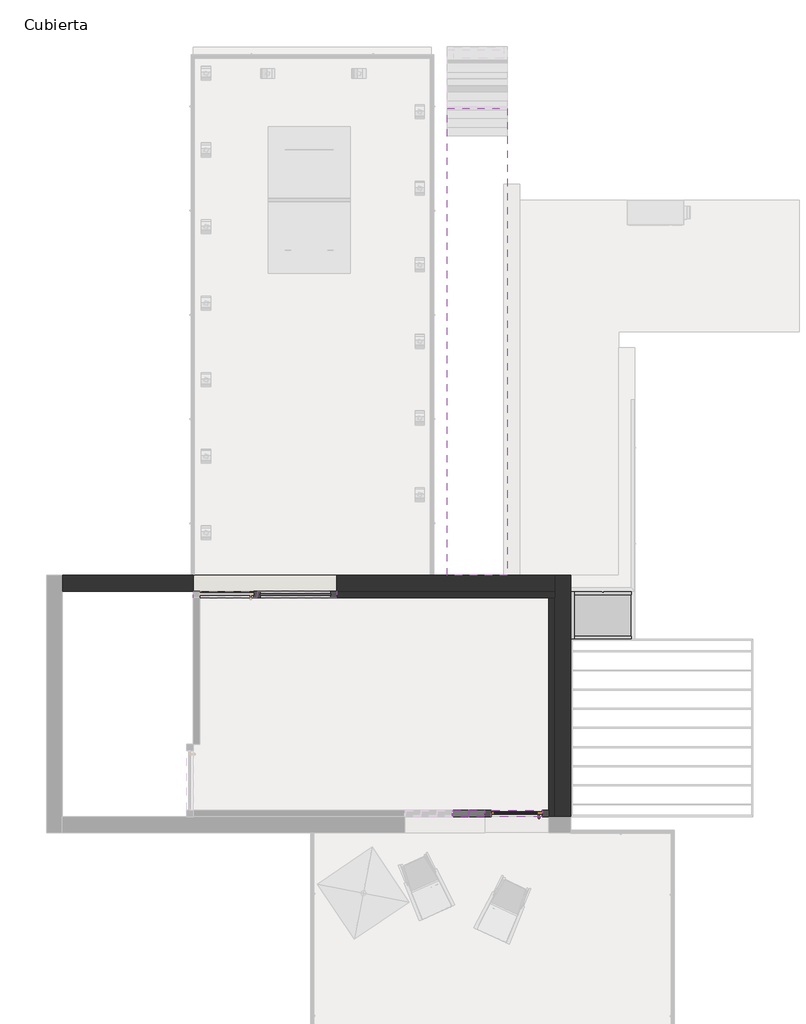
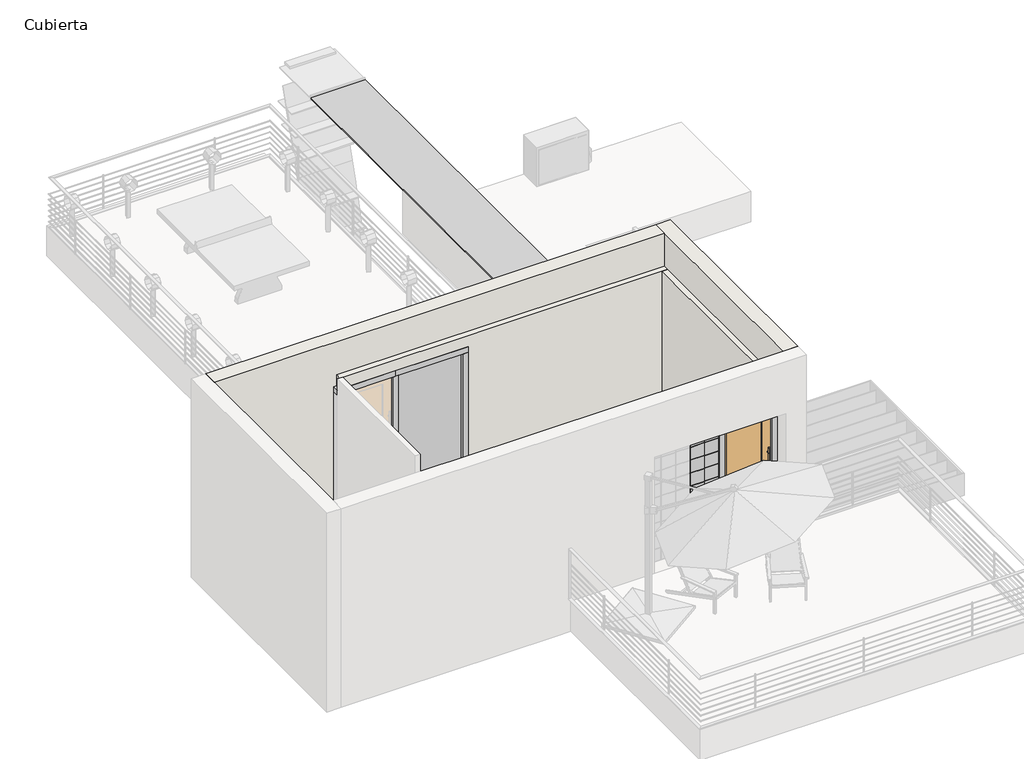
# One storey, part 2 of 3: 59 members, 21 plates, 4 walls, 1 door.
"""IFC4 building model written with IfcOpenShell, lengths in millimetres."""

from ifc_helpers import new_model, si_unit, origin, place, context, project, spatial, faceted_brep, transform, mapped, element, save
from components import sgl_glass_1_sgl_glass_1_8a55110c, montante_rectangular_21ec1a72, montante_rectangular_2e25ec90, montante_rectangular_0f009ab3, montante_rectangular_e8e7f79d, montante_rectangular_223da8a3, montante_rectangular_ca48c89f, montante_rectangular_3748f694, montante_rectangular_c4fc7d1e, montante_rectangular_montante_rectangular_10_x_10_cm_939e88b2, montante_rectangular_montante_rectangular_10_x_10_cm_76212c23, montante_rectangular_montante_rectangular_10_x_10_cm_1208ad8d, montante_rectangular_montante_rectangular_10_x_10_cm_fbaa0f1d, montante_rectangular_montante_rectangular_10_x_10_cm_c82e07c8, montante_rectangular_montante_rectangular_10_x_10_cm_2b84404f, montante_rectangular_montante_rectangular_10_x_10_cm_2c1c0a31, montante_rectangular_montante_rectangular_10_x_10_cm_14964f59, montante_rectangular_montante_rectangular_5_x_10_cm_afb0b622, montante_rectangular_montante_rectangular_5_x_10_cm_4e511d2b, panel_de_sistema_efafee70, panel_de_sistema_3b4a4584, panel_de_sistema_f5b48c68, panel_de_sistema_02896438, panel_de_sistema_acristalado_d2322d2b, panel_de_sistema_acristalado_58e72003, panel_de_sistema_acristalado_3_434b2e34

model = new_model("IFC4")

# Units and contexts
model_context = context("Model", 3, world=origin())
ifc_project = project(units=[si_unit("LENGTHUNIT", "METRE", prefix="MILLI")], contexts=[model_context])

# Site, building, storey
site = spatial("IfcSite", under=ifc_project)
building = spatial("IfcBuilding", under=site)
storey = spatial("IfcBuildingStorey", under=building, Name="Cubierta", Elevation=6000.0)

# Door
placement = place(None, origin())
sgl_glass_1_sgl_glass_1_shape = sgl_glass_1_sgl_glass_1_8a55110c(model_context)
element("IfcDoor", 1, ObjectType="Sgl Glass (1) : Sgl Glass (1)", at=placement, inside=storey, context=model_context, shape_type="MappedRepresentation", body=[
    mapped(sgl_glass_1_sgl_glass_1_shape, transform((1085.5350958, -7992.6669037, 6100.0), x_axis=(-1.0, 0.0, 0.0), y_axis=(0.0, -1.0, 0.0), z_axis=(0.0, 0.0, 1.0))),
])

# Members
montante_rectangular_shape = montante_rectangular_21ec1a72(model_context)
element("IfcMember", 2, ObjectType="Montante rectangular : Junta de paves", at=placement, inside=storey, context=model_context, shape_type="MappedRepresentation", body=[
    mapped(montante_rectangular_shape, transform((340.5350958, -7992.6669037, 8350.0), x_axis=(0.0, 0.0, 1.0), y_axis=(0.0, 1.0, 0.0), z_axis=(-1.0, 0.0, 0.0))),
])
montante_rectangular_2_shape = montante_rectangular_2e25ec90(model_context)
element("IfcMember", 3, ObjectType="Montante rectangular : Junta de paves", at=placement, inside=storey, context=model_context, shape_type="MappedRepresentation", body=[
    mapped(montante_rectangular_2_shape, transform((575.5350958, -7992.6669037, 6250.0), x_axis=(0.0, 0.0, -1.0), y_axis=(0.0, 1.0, 0.0), z_axis=(1.0, 0.0, 0.0))),
])
montante_rectangular_3_shape = montante_rectangular_0f009ab3(model_context)
element("IfcMember", 4, ObjectType="Montante rectangular : Junta de paves", at=placement, inside=storey, context=model_context, shape_type="MappedRepresentation", body=[
    mapped(montante_rectangular_3_shape, transform((340.5350958, -7992.6669037, 6483.3333333), x_axis=(0.0, 0.0, 1.0), y_axis=(0.0, 1.0, 0.0), z_axis=(-1.0, 0.0, 0.0))),
])
element("IfcMember", 5, ObjectType="Montante rectangular : Junta de paves", at=placement, inside=storey, context=model_context, shape_type="MappedRepresentation", body=[
    mapped(montante_rectangular_3_shape, transform((340.5350958, -7992.6669037, 6716.6666667), x_axis=(0.0, 0.0, 1.0), y_axis=(0.0, 1.0, 0.0), z_axis=(-1.0, 0.0, 0.0))),
])
element("IfcMember", 6, ObjectType="Montante rectangular : Junta de paves", at=placement, inside=storey, context=model_context, shape_type="MappedRepresentation", body=[
    mapped(montante_rectangular_3_shape, transform((340.5350958, -7992.6669037, 6950.0), x_axis=(0.0, 0.0, 1.0), y_axis=(0.0, 1.0, 0.0), z_axis=(-1.0, 0.0, 0.0))),
])
element("IfcMember", 7, ObjectType="Montante rectangular : Junta de paves", at=placement, inside=storey, context=model_context, shape_type="MappedRepresentation", body=[
    mapped(montante_rectangular_3_shape, transform((340.5350958, -7992.6669037, 7183.3333333), x_axis=(0.0, 0.0, 1.0), y_axis=(0.0, 1.0, 0.0), z_axis=(-1.0, 0.0, 0.0))),
])
element("IfcMember", 8, ObjectType="Montante rectangular : Junta de paves", at=placement, inside=storey, context=model_context, shape_type="MappedRepresentation", body=[
    mapped(montante_rectangular_3_shape, transform((340.5350958, -7992.6669037, 7416.6666667), x_axis=(0.0, 0.0, 1.0), y_axis=(0.0, 1.0, 0.0), z_axis=(-1.0, 0.0, 0.0))),
])
element("IfcMember", 9, ObjectType="Montante rectangular : Junta de paves", at=placement, inside=storey, context=model_context, shape_type="MappedRepresentation", body=[
    mapped(montante_rectangular_3_shape, transform((340.5350958, -7992.6669037, 7650.0), x_axis=(0.0, 0.0, 1.0), y_axis=(0.0, 1.0, 0.0), z_axis=(-1.0, 0.0, 0.0))),
])
element("IfcMember", 10, ObjectType="Montante rectangular : Junta de paves", at=placement, inside=storey, context=model_context, shape_type="MappedRepresentation", body=[
    mapped(montante_rectangular_3_shape, transform((340.5350958, -7992.6669037, 7883.3333333), x_axis=(0.0, 0.0, 1.0), y_axis=(0.0, 1.0, 0.0), z_axis=(-1.0, 0.0, 0.0))),
])
element("IfcMember", 11, ObjectType="Montante rectangular : Junta de paves", at=placement, inside=storey, context=model_context, shape_type="MappedRepresentation", body=[
    mapped(montante_rectangular_3_shape, transform((340.5350958, -7992.6669037, 8116.6666667), x_axis=(0.0, 0.0, 1.0), y_axis=(0.0, 1.0, 0.0), z_axis=(-1.0, 0.0, 0.0))),
])
montante_rectangular_4_shape = montante_rectangular_e8e7f79d(model_context)
element("IfcMember", 12, ObjectType="Montante rectangular : Junta de paves", at=placement, inside=storey, context=model_context, shape_type="MappedRepresentation", body=[
    mapped(montante_rectangular_4_shape, transform((330.5350958, -7992.6669037, 6250.0), x_axis=(0.0, 0.0, -1.0), y_axis=(0.0, 1.0, 0.0), z_axis=(1.0, 0.0, 0.0))),
])
element("IfcMember", 13, ObjectType="Montante rectangular : Junta de paves", at=placement, inside=storey, context=model_context, shape_type="MappedRepresentation", body=[
    mapped(montante_rectangular_4_shape, transform((80.5350958, -7992.6669037, 6250.0), x_axis=(0.0, 0.0, -1.0), y_axis=(0.0, 1.0, 0.0), z_axis=(1.0, 0.0, 0.0))),
])
montante_rectangular_5_shape = montante_rectangular_223da8a3(model_context)
element("IfcMember", 14, ObjectType="Montante rectangular : Junta de paves", at=placement, inside=storey, context=model_context, shape_type="MappedRepresentation", body=[
    mapped(montante_rectangular_5_shape, transform((90.5350958, -7992.6669037, 6483.3333333), x_axis=(0.0, 0.0, 1.0), y_axis=(0.0, 1.0, 0.0), z_axis=(-1.0, 0.0, 0.0))),
])
element("IfcMember", 15, ObjectType="Montante rectangular : Junta de paves", at=placement, inside=storey, context=model_context, shape_type="MappedRepresentation", body=[
    mapped(montante_rectangular_5_shape, transform((90.5350958, -7992.6669037, 6716.6666667), x_axis=(0.0, 0.0, 1.0), y_axis=(0.0, 1.0, 0.0), z_axis=(-1.0, 0.0, 0.0))),
])
element("IfcMember", 16, ObjectType="Montante rectangular : Junta de paves", at=placement, inside=storey, context=model_context, shape_type="MappedRepresentation", body=[
    mapped(montante_rectangular_5_shape, transform((90.5350958, -7992.6669037, 6950.0), x_axis=(0.0, 0.0, 1.0), y_axis=(0.0, 1.0, 0.0), z_axis=(-1.0, 0.0, 0.0))),
])
element("IfcMember", 17, ObjectType="Montante rectangular : Junta de paves", at=placement, inside=storey, context=model_context, shape_type="MappedRepresentation", body=[
    mapped(montante_rectangular_5_shape, transform((90.5350958, -7992.6669037, 7183.3333333), x_axis=(0.0, 0.0, 1.0), y_axis=(0.0, 1.0, 0.0), z_axis=(-1.0, 0.0, 0.0))),
])
element("IfcMember", 18, ObjectType="Montante rectangular : Junta de paves", at=placement, inside=storey, context=model_context, shape_type="MappedRepresentation", body=[
    mapped(montante_rectangular_5_shape, transform((90.5350958, -7992.6669037, 7416.6666667), x_axis=(0.0, 0.0, 1.0), y_axis=(0.0, 1.0, 0.0), z_axis=(-1.0, 0.0, 0.0))),
])
element("IfcMember", 19, ObjectType="Montante rectangular : Junta de paves", at=placement, inside=storey, context=model_context, shape_type="MappedRepresentation", body=[
    mapped(montante_rectangular_5_shape, transform((90.5350958, -7992.6669037, 7650.0), x_axis=(0.0, 0.0, 1.0), y_axis=(0.0, 1.0, 0.0), z_axis=(-1.0, 0.0, 0.0))),
])
element("IfcMember", 20, ObjectType="Montante rectangular : Junta de paves", at=placement, inside=storey, context=model_context, shape_type="MappedRepresentation", body=[
    mapped(montante_rectangular_5_shape, transform((90.5350958, -7992.6669037, 7883.3333333), x_axis=(0.0, 0.0, 1.0), y_axis=(0.0, 1.0, 0.0), z_axis=(-1.0, 0.0, 0.0))),
])
element("IfcMember", 21, ObjectType="Montante rectangular : Junta de paves", at=placement, inside=storey, context=model_context, shape_type="MappedRepresentation", body=[
    mapped(montante_rectangular_5_shape, transform((90.5350958, -7992.6669037, 8116.6666667), x_axis=(0.0, 0.0, 1.0), y_axis=(0.0, 1.0, 0.0), z_axis=(-1.0, 0.0, 0.0))),
])
montante_rectangular_6_shape = montante_rectangular_ca48c89f(model_context)
element("IfcMember", 22, ObjectType="Montante rectangular : Junta de paves", at=placement, inside=storey, context=model_context, shape_type="MappedRepresentation", body=[
    mapped(montante_rectangular_6_shape, transform((90.5350958, -7992.6669037, 8350.0), x_axis=(0.0, 0.0, 1.0), y_axis=(0.0, 1.0, 0.0), z_axis=(-1.0, 0.0, 0.0))),
])
montante_rectangular_7_shape = montante_rectangular_3748f694(model_context)
element("IfcMember", 23, ObjectType="Montante rectangular : Junta de paves", at=placement, inside=storey, context=model_context, shape_type="MappedRepresentation", body=[
    mapped(montante_rectangular_7_shape, transform((335.5350958, -7992.6669037, 6250.0), x_axis=(-1.0, 0.0, 0.0), y_axis=(0.0, 1.0, 0.0), z_axis=(0.0, 0.0, -1.0))),
])
element("IfcMember", 24, ObjectType="Montante rectangular : Junta de paves", at=placement, inside=storey, context=model_context, shape_type="MappedRepresentation", body=[
    mapped(montante_rectangular_7_shape, transform((85.5350958, -7992.6669037, 6250.0), x_axis=(-1.0, 0.0, 0.0), y_axis=(0.0, 1.0, 0.0), z_axis=(0.0, 0.0, -1.0))),
])
element("IfcMember", 25, ObjectType="Montante rectangular : Junta de paves", at=placement, inside=storey, context=model_context, shape_type="MappedRepresentation", body=[
    mapped(montante_rectangular_7_shape, transform((335.5350958, -7992.6669037, 6483.3333333), x_axis=(-1.0, 0.0, 0.0), y_axis=(0.0, 1.0, 0.0), z_axis=(0.0, 0.0, -1.0))),
])
element("IfcMember", 26, ObjectType="Montante rectangular : Junta de paves", at=placement, inside=storey, context=model_context, shape_type="MappedRepresentation", body=[
    mapped(montante_rectangular_7_shape, transform((85.5350958, -7992.6669037, 6483.3333333), x_axis=(-1.0, 0.0, 0.0), y_axis=(0.0, 1.0, 0.0), z_axis=(0.0, 0.0, -1.0))),
])
element("IfcMember", 27, ObjectType="Montante rectangular : Junta de paves", at=placement, inside=storey, context=model_context, shape_type="MappedRepresentation", body=[
    mapped(montante_rectangular_7_shape, transform((335.5350958, -7992.6669037, 6716.6666667), x_axis=(-1.0, 0.0, 0.0), y_axis=(0.0, 1.0, 0.0), z_axis=(0.0, 0.0, -1.0))),
])
element("IfcMember", 28, ObjectType="Montante rectangular : Junta de paves", at=placement, inside=storey, context=model_context, shape_type="MappedRepresentation", body=[
    mapped(montante_rectangular_7_shape, transform((85.5350958, -7992.6669037, 6716.6666667), x_axis=(-1.0, 0.0, 0.0), y_axis=(0.0, 1.0, 0.0), z_axis=(0.0, 0.0, -1.0))),
])
element("IfcMember", 29, ObjectType="Montante rectangular : Junta de paves", at=placement, inside=storey, context=model_context, shape_type="MappedRepresentation", body=[
    mapped(montante_rectangular_7_shape, transform((335.5350958, -7992.6669037, 6950.0), x_axis=(-1.0, 0.0, 0.0), y_axis=(0.0, 1.0, 0.0), z_axis=(0.0, 0.0, -1.0))),
])
element("IfcMember", 30, ObjectType="Montante rectangular : Junta de paves", at=placement, inside=storey, context=model_context, shape_type="MappedRepresentation", body=[
    mapped(montante_rectangular_7_shape, transform((85.5350958, -7992.6669037, 6950.0), x_axis=(-1.0, 0.0, 0.0), y_axis=(0.0, 1.0, 0.0), z_axis=(0.0, 0.0, -1.0))),
])
element("IfcMember", 31, ObjectType="Montante rectangular : Junta de paves", at=placement, inside=storey, context=model_context, shape_type="MappedRepresentation", body=[
    mapped(montante_rectangular_7_shape, transform((335.5350958, -7992.6669037, 7183.3333333), x_axis=(-1.0, 0.0, 0.0), y_axis=(0.0, 1.0, 0.0), z_axis=(0.0, 0.0, -1.0))),
])
element("IfcMember", 32, ObjectType="Montante rectangular : Junta de paves", at=placement, inside=storey, context=model_context, shape_type="MappedRepresentation", body=[
    mapped(montante_rectangular_7_shape, transform((85.5350958, -7992.6669037, 7183.3333333), x_axis=(-1.0, 0.0, 0.0), y_axis=(0.0, 1.0, 0.0), z_axis=(0.0, 0.0, -1.0))),
])
element("IfcMember", 33, ObjectType="Montante rectangular : Junta de paves", at=placement, inside=storey, context=model_context, shape_type="MappedRepresentation", body=[
    mapped(montante_rectangular_7_shape, transform((335.5350958, -7992.6669037, 7416.6666667), x_axis=(-1.0, 0.0, 0.0), y_axis=(0.0, 1.0, 0.0), z_axis=(0.0, 0.0, -1.0))),
])
element("IfcMember", 34, ObjectType="Montante rectangular : Junta de paves", at=placement, inside=storey, context=model_context, shape_type="MappedRepresentation", body=[
    mapped(montante_rectangular_7_shape, transform((85.5350958, -7992.6669037, 7416.6666667), x_axis=(-1.0, 0.0, 0.0), y_axis=(0.0, 1.0, 0.0), z_axis=(0.0, 0.0, -1.0))),
])
element("IfcMember", 35, ObjectType="Montante rectangular : Junta de paves", at=placement, inside=storey, context=model_context, shape_type="MappedRepresentation", body=[
    mapped(montante_rectangular_7_shape, transform((335.5350958, -7992.6669037, 7650.0), x_axis=(-1.0, 0.0, 0.0), y_axis=(0.0, 1.0, 0.0), z_axis=(0.0, 0.0, -1.0))),
])
element("IfcMember", 36, ObjectType="Montante rectangular : Junta de paves", at=placement, inside=storey, context=model_context, shape_type="MappedRepresentation", body=[
    mapped(montante_rectangular_7_shape, transform((85.5350958, -7992.6669037, 7650.0), x_axis=(-1.0, 0.0, 0.0), y_axis=(0.0, 1.0, 0.0), z_axis=(0.0, 0.0, -1.0))),
])
element("IfcMember", 37, ObjectType="Montante rectangular : Junta de paves", at=placement, inside=storey, context=model_context, shape_type="MappedRepresentation", body=[
    mapped(montante_rectangular_7_shape, transform((335.5350958, -7992.6669037, 7883.3333333), x_axis=(-1.0, 0.0, 0.0), y_axis=(0.0, 1.0, 0.0), z_axis=(0.0, 0.0, -1.0))),
])
element("IfcMember", 38, ObjectType="Montante rectangular : Junta de paves", at=placement, inside=storey, context=model_context, shape_type="MappedRepresentation", body=[
    mapped(montante_rectangular_7_shape, transform((85.5350958, -7992.6669037, 7883.3333333), x_axis=(-1.0, 0.0, 0.0), y_axis=(0.0, 1.0, 0.0), z_axis=(0.0, 0.0, -1.0))),
])
element("IfcMember", 39, ObjectType="Montante rectangular : Junta de paves", at=placement, inside=storey, context=model_context, shape_type="MappedRepresentation", body=[
    mapped(montante_rectangular_7_shape, transform((335.5350958, -7992.6669037, 8116.6666667), x_axis=(-1.0, 0.0, 0.0), y_axis=(0.0, 1.0, 0.0), z_axis=(0.0, 0.0, -1.0))),
])
element("IfcMember", 40, ObjectType="Montante rectangular : Junta de paves", at=placement, inside=storey, context=model_context, shape_type="MappedRepresentation", body=[
    mapped(montante_rectangular_7_shape, transform((85.5350958, -7992.6669037, 8116.6666667), x_axis=(-1.0, 0.0, 0.0), y_axis=(0.0, 1.0, 0.0), z_axis=(0.0, 0.0, -1.0))),
])
montante_rectangular_8_shape = montante_rectangular_c4fc7d1e(model_context)
element("IfcMember", 41, ObjectType="Montante rectangular : Junta de paves", at=placement, inside=storey, context=model_context, shape_type="MappedRepresentation", body=[
    mapped(montante_rectangular_8_shape, transform((585.5350958, -7992.6669037, 8350.0), x_axis=(1.0, 0.0, 0.0), y_axis=(0.0, 1.0, 0.0), z_axis=(0.0, 0.0, 1.0))),
])
element("IfcMember", 42, ObjectType="Montante rectangular : Junta de paves", at=placement, inside=storey, context=model_context, shape_type="MappedRepresentation", body=[
    mapped(montante_rectangular_8_shape, transform((585.5350958, -7992.6669037, 6483.3333333), x_axis=(1.0, 0.0, 0.0), y_axis=(0.0, 1.0, 0.0), z_axis=(0.0, 0.0, 1.0))),
])
element("IfcMember", 43, ObjectType="Montante rectangular : Junta de paves", at=placement, inside=storey, context=model_context, shape_type="MappedRepresentation", body=[
    mapped(montante_rectangular_8_shape, transform((585.5350958, -7992.6669037, 6716.6666667), x_axis=(1.0, 0.0, 0.0), y_axis=(0.0, 1.0, 0.0), z_axis=(0.0, 0.0, 1.0))),
])
element("IfcMember", 44, ObjectType="Montante rectangular : Junta de paves", at=placement, inside=storey, context=model_context, shape_type="MappedRepresentation", body=[
    mapped(montante_rectangular_8_shape, transform((585.5350958, -7992.6669037, 6950.0), x_axis=(1.0, 0.0, 0.0), y_axis=(0.0, 1.0, 0.0), z_axis=(0.0, 0.0, 1.0))),
])
element("IfcMember", 45, ObjectType="Montante rectangular : Junta de paves", at=placement, inside=storey, context=model_context, shape_type="MappedRepresentation", body=[
    mapped(montante_rectangular_8_shape, transform((585.5350958, -7992.6669037, 7183.3333333), x_axis=(1.0, 0.0, 0.0), y_axis=(0.0, 1.0, 0.0), z_axis=(0.0, 0.0, 1.0))),
])
element("IfcMember", 46, ObjectType="Montante rectangular : Junta de paves", at=placement, inside=storey, context=model_context, shape_type="MappedRepresentation", body=[
    mapped(montante_rectangular_8_shape, transform((585.5350958, -7992.6669037, 7416.6666667), x_axis=(1.0, 0.0, 0.0), y_axis=(0.0, 1.0, 0.0), z_axis=(0.0, 0.0, 1.0))),
])
element("IfcMember", 47, ObjectType="Montante rectangular : Junta de paves", at=placement, inside=storey, context=model_context, shape_type="MappedRepresentation", body=[
    mapped(montante_rectangular_8_shape, transform((585.5350958, -7992.6669037, 7650.0), x_axis=(1.0, 0.0, 0.0), y_axis=(0.0, 1.0, 0.0), z_axis=(0.0, 0.0, 1.0))),
])
element("IfcMember", 48, ObjectType="Montante rectangular : Junta de paves", at=placement, inside=storey, context=model_context, shape_type="MappedRepresentation", body=[
    mapped(montante_rectangular_8_shape, transform((585.5350958, -7992.6669037, 7883.3333333), x_axis=(1.0, 0.0, 0.0), y_axis=(0.0, 1.0, 0.0), z_axis=(0.0, 0.0, 1.0))),
])
element("IfcMember", 49, ObjectType="Montante rectangular : Junta de paves", at=placement, inside=storey, context=model_context, shape_type="MappedRepresentation", body=[
    mapped(montante_rectangular_8_shape, transform((585.5350958, -7992.6669037, 8116.6666667), x_axis=(1.0, 0.0, 0.0), y_axis=(0.0, 1.0, 0.0), z_axis=(0.0, 0.0, 1.0))),
])
montante_rectangular_montante_rectangular_10_x_10_cm_shape = montante_rectangular_montante_rectangular_10_x_10_cm_939e88b2(model_context)
element("IfcMember", 50, ObjectType="Montante rectangular : Montante rectangular - 10 x 10 cm", at=placement, inside=storey, context=model_context, shape_type="MappedRepresentation", body=[
    mapped(montante_rectangular_montante_rectangular_10_x_10_cm_shape, transform((-2981.0601801, -4562.6669037, 8500.0), x_axis=(0.0, 0.0, 1.0), y_axis=(0.0, -1.0, 0.0), z_axis=(1.0, 0.0, 0.0))),
])
montante_rectangular_montante_rectangular_10_x_10_cm_2_shape = montante_rectangular_montante_rectangular_10_x_10_cm_76212c23(model_context)
element("IfcMember", 51, ObjectType="Montante rectangular : Montante rectangular - 10 x 10 cm", at=placement, inside=storey, context=model_context, shape_type="MappedRepresentation", body=[
    mapped(montante_rectangular_montante_rectangular_10_x_10_cm_2_shape, transform((685.5350958, -7992.6669037, 8350.0), x_axis=(0.0, 0.0, 1.0), y_axis=(0.0, 1.0, 0.0), z_axis=(-1.0, 0.0, 0.0))),
])
montante_rectangular_montante_rectangular_10_x_10_cm_3_shape = montante_rectangular_montante_rectangular_10_x_10_cm_1208ad8d(model_context)
element("IfcMember", 52, ObjectType="Montante rectangular : Montante rectangular - 10 x 10 cm", at=placement, inside=storey, context=model_context, shape_type="MappedRepresentation", body=[
    mapped(montante_rectangular_montante_rectangular_10_x_10_cm_3_shape, transform((585.5350958, -7992.6669037, 6100.0), x_axis=(-1.0, 0.0, 0.0), y_axis=(0.0, 1.0, 0.0), z_axis=(0.0, 0.0, -1.0))),
])
montante_rectangular_montante_rectangular_10_x_10_cm_4_shape = montante_rectangular_montante_rectangular_10_x_10_cm_fbaa0f1d(model_context)
element("IfcMember", 53, ObjectType="Montante rectangular : Montante rectangular - 10 x 10 cm", at=placement, inside=storey, context=model_context, shape_type="MappedRepresentation", body=[
    mapped(montante_rectangular_montante_rectangular_10_x_10_cm_4_shape, transform((1585.5350958, -7992.6669037, 8350.0), x_axis=(1.0, 0.0, 0.0), y_axis=(0.0, 1.0, 0.0), z_axis=(0.0, 0.0, 1.0))),
])
montante_rectangular_montante_rectangular_10_x_10_cm_5_shape = montante_rectangular_montante_rectangular_10_x_10_cm_c82e07c8(model_context)
element("IfcMember", 54, ObjectType="Montante rectangular : Montante rectangular - 10 x 10 cm", at=placement, inside=storey, context=model_context, shape_type="MappedRepresentation", body=[
    mapped(montante_rectangular_montante_rectangular_10_x_10_cm_5_shape, transform((-1731.0601801, -4562.6669037, 6350.0), x_axis=(1.0, 0.0, 0.0), y_axis=(0.0, -1.0, 0.0), z_axis=(0.0, 0.0, -1.0))),
])
montante_rectangular_montante_rectangular_10_x_10_cm_6_shape = montante_rectangular_montante_rectangular_10_x_10_cm_2b84404f(model_context)
element("IfcMember", 55, ObjectType="Montante rectangular : Montante rectangular - 10 x 10 cm", at=placement, inside=storey, context=model_context, shape_type="MappedRepresentation", body=[
    mapped(montante_rectangular_montante_rectangular_10_x_10_cm_6_shape, transform((-1731.0601801, -4562.6669037, 8500.0), x_axis=(0.0, 0.0, 1.0), y_axis=(0.0, -1.0, 0.0), z_axis=(1.0, 0.0, 0.0))),
])
montante_rectangular_montante_rectangular_10_x_10_cm_7_shape = montante_rectangular_montante_rectangular_10_x_10_cm_2c1c0a31(model_context)
element("IfcMember", 56, ObjectType="Montante rectangular : Montante rectangular - 10 x 10 cm", at=placement, inside=storey, context=model_context, shape_type="MappedRepresentation", body=[
    mapped(montante_rectangular_montante_rectangular_10_x_10_cm_7_shape, transform((-2981.0601801, -4562.6669037, 6350.0), x_axis=(1.0, 0.0, 0.0), y_axis=(0.0, -1.0, 0.0), z_axis=(0.0, 0.0, -1.0))),
])
montante_rectangular_montante_rectangular_10_x_10_cm_8_shape = montante_rectangular_montante_rectangular_10_x_10_cm_14964f59(model_context)
element("IfcMember", 57, ObjectType="Montante rectangular : Montante rectangular - 10 x 10 cm", at=placement, inside=storey, context=model_context, shape_type="MappedRepresentation", body=[
    mapped(montante_rectangular_montante_rectangular_10_x_10_cm_8_shape, transform((-3031.0601801, -4562.6669037, 6250.0), x_axis=(0.0, 0.0, -1.0), y_axis=(0.0, -1.0, 0.0), z_axis=(-1.0, 0.0, 0.0))),
])
montante_rectangular_montante_rectangular_5_x_10_cm_shape = montante_rectangular_montante_rectangular_5_x_10_cm_afb0b622(model_context)
element("IfcMember", 58, ObjectType="Montante rectangular : Montante rectangular - 5 x 10 cm", at=placement, inside=storey, context=model_context, shape_type="MappedRepresentation", body=[
    mapped(montante_rectangular_montante_rectangular_5_x_10_cm_shape, transform((2885.5350958, -5262.6669037, 5650.0), x_axis=(0.0, -1.0, 0.0), y_axis=(0.0, 0.0, -1.0), z_axis=(1.0, 0.0, 0.0))),
])
element("IfcMember", 59, ObjectType="Montante rectangular : Montante rectangular - 5 x 10 cm", at=placement, inside=storey, context=model_context, shape_type="MappedRepresentation", body=[
    mapped(montante_rectangular_montante_rectangular_5_x_10_cm_shape, transform((1985.5350958, -4512.6669037, 5650.0), x_axis=(0.0, 1.0, 0.0), y_axis=(0.0, 0.0, -1.0), z_axis=(-1.0, 0.0, 0.0))),
])
montante_rectangular_montante_rectangular_5_x_10_cm_2_shape = montante_rectangular_montante_rectangular_5_x_10_cm_4e511d2b(model_context)
element("IfcMember", 60, ObjectType="Montante rectangular : Montante rectangular - 5 x 10 cm", at=placement, inside=storey, context=model_context, shape_type="MappedRepresentation", body=[
    mapped(montante_rectangular_montante_rectangular_5_x_10_cm_2_shape, transform((1935.5350958, -5262.6669037, 5650.0), x_axis=(-1.0, 0.0, 0.0), y_axis=(0.0, 0.0, -1.0), z_axis=(0.0, -1.0, 0.0))),
])

# Plates
panel_de_sistema_shape = panel_de_sistema_efafee70(model_context)
element("IfcPlate", 61, ObjectType="Panel de sistema : PAVES", at=placement, inside=storey, context=model_context, shape_type="MappedRepresentation", body=[
    mapped(panel_de_sistema_shape, transform((458.0350958, -7992.6669037, 6260.0), x_axis=(-1.0, 0.0, 0.0), y_axis=(0.0, -1.0, 0.0), z_axis=(0.0, 0.0, 1.0))),
])
element("IfcPlate", 62, ObjectType="Panel de sistema : PAVES", at=placement, inside=storey, context=model_context, shape_type="MappedRepresentation", body=[
    mapped(panel_de_sistema_shape, transform((458.0350958, -7992.6669037, 8121.6666667), x_axis=(-1.0, 0.0, 0.0), y_axis=(0.0, -1.0, 0.0), z_axis=(0.0, 0.0, 1.0))),
])
panel_de_sistema_2_shape = panel_de_sistema_3b4a4584(model_context)
element("IfcPlate", 63, ObjectType="Panel de sistema : PAVES", at=placement, inside=storey, context=model_context, shape_type="MappedRepresentation", body=[
    mapped(panel_de_sistema_2_shape, transform((210.5350958, -7992.6669037, 6260.0), x_axis=(-1.0, 0.0, 0.0), y_axis=(0.0, -1.0, 0.0), z_axis=(0.0, 0.0, 1.0))),
])
element("IfcPlate", 64, ObjectType="Panel de sistema : PAVES", at=placement, inside=storey, context=model_context, shape_type="MappedRepresentation", body=[
    mapped(panel_de_sistema_2_shape, transform((210.5350958, -7992.6669037, 8121.6666667), x_axis=(-1.0, 0.0, 0.0), y_axis=(0.0, -1.0, 0.0), z_axis=(0.0, 0.0, 1.0))),
])
panel_de_sistema_3_shape = panel_de_sistema_f5b48c68(model_context)
element("IfcPlate", 65, ObjectType="Panel de sistema : PAVES", at=placement, inside=storey, context=model_context, shape_type="MappedRepresentation", body=[
    mapped(panel_de_sistema_3_shape, transform((458.0350958, -7992.6669037, 6488.3333333), x_axis=(-1.0, 0.0, 0.0), y_axis=(0.0, -1.0, 0.0), z_axis=(0.0, 0.0, 1.0))),
])
element("IfcPlate", 66, ObjectType="Panel de sistema : PAVES", at=placement, inside=storey, context=model_context, shape_type="MappedRepresentation", body=[
    mapped(panel_de_sistema_3_shape, transform((458.0350958, -7992.6669037, 6721.6666667), x_axis=(-1.0, 0.0, 0.0), y_axis=(0.0, -1.0, 0.0), z_axis=(0.0, 0.0, 1.0))),
])
element("IfcPlate", 67, ObjectType="Panel de sistema : PAVES", at=placement, inside=storey, context=model_context, shape_type="MappedRepresentation", body=[
    mapped(panel_de_sistema_3_shape, transform((458.0350958, -7992.6669037, 6955.0), x_axis=(-1.0, 0.0, 0.0), y_axis=(0.0, -1.0, 0.0), z_axis=(0.0, 0.0, 1.0))),
])
element("IfcPlate", 68, ObjectType="Panel de sistema : PAVES", at=placement, inside=storey, context=model_context, shape_type="MappedRepresentation", body=[
    mapped(panel_de_sistema_3_shape, transform((458.0350958, -7992.6669037, 7188.3333333), x_axis=(-1.0, 0.0, 0.0), y_axis=(0.0, -1.0, 0.0), z_axis=(0.0, 0.0, 1.0))),
])
element("IfcPlate", 69, ObjectType="Panel de sistema : PAVES", at=placement, inside=storey, context=model_context, shape_type="MappedRepresentation", body=[
    mapped(panel_de_sistema_3_shape, transform((458.0350958, -7992.6669037, 7421.6666667), x_axis=(-1.0, 0.0, 0.0), y_axis=(0.0, -1.0, 0.0), z_axis=(0.0, 0.0, 1.0))),
])
element("IfcPlate", 70, ObjectType="Panel de sistema : PAVES", at=placement, inside=storey, context=model_context, shape_type="MappedRepresentation", body=[
    mapped(panel_de_sistema_3_shape, transform((458.0350958, -7992.6669037, 7655.0), x_axis=(-1.0, 0.0, 0.0), y_axis=(0.0, -1.0, 0.0), z_axis=(0.0, 0.0, 1.0))),
])
element("IfcPlate", 71, ObjectType="Panel de sistema : PAVES", at=placement, inside=storey, context=model_context, shape_type="MappedRepresentation", body=[
    mapped(panel_de_sistema_3_shape, transform((458.0350958, -7992.6669037, 7888.3333333), x_axis=(-1.0, 0.0, 0.0), y_axis=(0.0, -1.0, 0.0), z_axis=(0.0, 0.0, 1.0))),
])
panel_de_sistema_4_shape = panel_de_sistema_02896438(model_context)
element("IfcPlate", 72, ObjectType="Panel de sistema : PAVES", at=placement, inside=storey, context=model_context, shape_type="MappedRepresentation", body=[
    mapped(panel_de_sistema_4_shape, transform((210.5350958, -7992.6669037, 6488.3333333), x_axis=(-1.0, 0.0, 0.0), y_axis=(0.0, -1.0, 0.0), z_axis=(0.0, 0.0, 1.0))),
])
element("IfcPlate", 73, ObjectType="Panel de sistema : PAVES", at=placement, inside=storey, context=model_context, shape_type="MappedRepresentation", body=[
    mapped(panel_de_sistema_4_shape, transform((210.5350958, -7992.6669037, 6721.6666667), x_axis=(-1.0, 0.0, 0.0), y_axis=(0.0, -1.0, 0.0), z_axis=(0.0, 0.0, 1.0))),
])
element("IfcPlate", 74, ObjectType="Panel de sistema : PAVES", at=placement, inside=storey, context=model_context, shape_type="MappedRepresentation", body=[
    mapped(panel_de_sistema_4_shape, transform((210.5350958, -7992.6669037, 6955.0), x_axis=(-1.0, 0.0, 0.0), y_axis=(0.0, -1.0, 0.0), z_axis=(0.0, 0.0, 1.0))),
])
element("IfcPlate", 75, ObjectType="Panel de sistema : PAVES", at=placement, inside=storey, context=model_context, shape_type="MappedRepresentation", body=[
    mapped(panel_de_sistema_4_shape, transform((210.5350958, -7992.6669037, 7188.3333333), x_axis=(-1.0, 0.0, 0.0), y_axis=(0.0, -1.0, 0.0), z_axis=(0.0, 0.0, 1.0))),
])
element("IfcPlate", 76, ObjectType="Panel de sistema : PAVES", at=placement, inside=storey, context=model_context, shape_type="MappedRepresentation", body=[
    mapped(panel_de_sistema_4_shape, transform((210.5350958, -7992.6669037, 7421.6666667), x_axis=(-1.0, 0.0, 0.0), y_axis=(0.0, -1.0, 0.0), z_axis=(0.0, 0.0, 1.0))),
])
element("IfcPlate", 77, ObjectType="Panel de sistema : PAVES", at=placement, inside=storey, context=model_context, shape_type="MappedRepresentation", body=[
    mapped(panel_de_sistema_4_shape, transform((210.5350958, -7992.6669037, 7655.0), x_axis=(-1.0, 0.0, 0.0), y_axis=(0.0, -1.0, 0.0), z_axis=(0.0, 0.0, 1.0))),
])
element("IfcPlate", 78, ObjectType="Panel de sistema : PAVES", at=placement, inside=storey, context=model_context, shape_type="MappedRepresentation", body=[
    mapped(panel_de_sistema_4_shape, transform((210.5350958, -7992.6669037, 7888.3333333), x_axis=(-1.0, 0.0, 0.0), y_axis=(0.0, -1.0, 0.0), z_axis=(0.0, 0.0, 1.0))),
])
panel_de_sistema_acristalado_shape = panel_de_sistema_acristalado_d2322d2b(model_context)
element("IfcPlate", 79, ObjectType="Panel de sistema : Acristalado", at=placement, inside=storey, context=model_context, shape_type="MappedRepresentation", body=[
    mapped(panel_de_sistema_acristalado_shape, transform((-2381.0601801, -4562.6669037, 6350.0), x_axis=(1.0, 0.0, 0.0), y_axis=(0.0, 1.0, 0.0), z_axis=(0.0, 0.0, 1.0))),
])
panel_de_sistema_acristalado_2_shape = panel_de_sistema_acristalado_58e72003(model_context)
element("IfcPlate", 80, ObjectType="Panel de sistema : Acristalado", at=placement, inside=storey, context=model_context, shape_type="MappedRepresentation", body=[
    mapped(panel_de_sistema_acristalado_2_shape, transform((2435.5350958, -5212.6669037, 5650.0), x_axis=(1.0, 0.0, 0.0), y_axis=(0.0, 0.0, -1.0), z_axis=(0.0, 1.0, 0.0))),
])
panel_de_sistema_acristalado_3_shape = panel_de_sistema_acristalado_3_434b2e34(model_context)
element("IfcPlate", 81, ObjectType="Panel de sistema : Acristalado 3", at=placement, inside=storey, context=model_context, shape_type="MappedRepresentation", body=[
    mapped(panel_de_sistema_acristalado_3_shape, transform((-0.8563883, -601.5557926, 7640.0), x_axis=(0.0, -1.0, 0.0), y_axis=(0.0, 0.0, -1.0), z_axis=(1.0, 0.0, 0.0))),
])

# Walls
element("IfcWall", 82, ObjectType="Hormigón - 25 cm", at=placement, inside=storey, context=model_context, shape_type="Brep", body=[
    faceted_brep([(1935.5350958, -8292.6669037, 5550.0), (1935.5350958, -4512.6669037, 5550.0), (1935.5350958, -4262.6669037, 5550.0), (1935.5350958, -4262.6669037, 6230.0), (1935.5350958, -4262.6669037, 9300.0), (1935.5350958, -8042.6669037, 9300.0), (1935.5350958, -8042.6669037, 5700.0), (1935.5350958, -8292.6669037, 5700.0), (1685.5350958, -8292.6669037, 5550.0), (1685.5350958, -8292.6669037, 5700.0), (1685.5350958, -8042.6669037, 5700.0), (1685.5350958, -8042.6669037, 9300.0), (1685.5350958, -4512.6669037, 9300.0), (1685.5350958, -4262.6669037, 9300.0), (1685.5350958, -4262.6669037, 5700.0), (1685.5350958, -4262.6669037, 5550.0)], [[[0, 1, 2, 3, 4, 5, 6, 7]], [[8, 9, 10, 11, 12, 13, 14, 15]], [[2, 1, 0, 8, 15]], [[5, 4, 13, 12, 11]], [[2, 15, 14, 13, 4, 3]], [[6, 10, 9, 7]], [[0, 7, 9, 8]], [[5, 11, 10, 6]]]),
])
element("IfcWall", 83, ObjectType="Hormigón - 25", at=placement, inside=storey, context=model_context, shape_type="Brep", body=[
    faceted_brep([(-6031.0601801, -4262.6669037, 9300.0), (1685.5350958, -4262.6669037, 9300.0), (1685.5350958, -4262.6669037, 5700.0), (945.5350958, -4262.6669037, 5700.0), (885.5350958, -4262.6669037, 5700.0), (-0.8601801, -4262.6669037, 5700.0), (-250.8601801, -4262.6669037, 5700.0), (-3981.0601801, -4262.6669037, 5700.0), (-3981.0601801, -4262.6669037, 6250.0), (-1731.0601801, -4262.6669037, 6250.0), (-1731.0601801, -4262.6669037, 8500.0), (-3981.0601801, -4262.6669037, 8500.0), (-3981.0601801, -4262.6669037, 6300.0), (-4231.0601801, -4262.6669037, 6300.0), (-4231.0601801, -4262.6669037, 5700.0), (-6031.0601801, -4262.6669037, 5700.0), (-4231.0601801, -4512.6669037, 5700.0), (-4231.0601801, -4512.6669037, 6300.0), (-3981.0601801, -4512.6669037, 6300.0), (-3981.0601801, -4512.6669037, 8500.0), (-3931.0601801, -4512.6669037, 8500.0), (-1731.0601801, -4512.6669037, 8500.0), (-1731.0601801, -4512.6669037, 6250.0), (-3931.0601801, -4512.6669037, 6250.0), (-3981.0601801, -4512.6669037, 6250.0), (-3981.0601801, -4512.6669037, 6100.0), (-3981.0601801, -4512.6669037, 5700.0), (-250.8601801, -4512.6669037, 5700.0), (-0.8601801, -4512.6669037, 5700.0), (1685.5350958, -4512.6669037, 5700.0), (1685.5350958, -4512.6669037, 6100.0), (1685.5350958, -4512.6669037, 8700.0), (1685.5350958, -4512.6669037, 9300.0), (-3981.0601801, -4512.6669037, 9300.0), (-4231.0601801, -4512.6669037, 9300.0), (-6031.0601801, -4512.6669037, 9300.0), (-6031.0601801, -4512.6669037, 5700.0)], [[[0, 1, 2, 3, 4, 5, 6, 7, 8, 9, 10, 11, 12, 13, 14, 15]], [[16, 17, 18, 19, 20, 21, 22, 23, 24, 25, 26, 27, 28, 29, 30, 31, 32, 33, 34, 35, 36]], [[13, 17, 16, 14]], [[8, 7, 26, 25, 24]], [[17, 13, 12, 18]], [[2, 29, 28, 27, 26, 7, 6, 5, 4, 3]], [[36, 15, 14, 16]], [[1, 0, 35, 34, 33, 32]], [[0, 15, 36, 35]], [[1, 32, 31, 30, 29, 2]], [[11, 19, 18, 12]], [[19, 11, 10, 21, 20]], [[21, 10, 9, 22]], [[22, 9, 8, 24, 23]]]),
])
element("IfcWall", 84, ObjectType="Trasdosado de placa de yeso laminando", at=placement, inside=storey, context=model_context, shape_type="Brep", body=[
    faceted_brep([(-3931.0601801, -4512.6669037, 8700.0), (1685.5350958, -4512.6669037, 8700.0), (1685.5350958, -4512.6669037, 6100.0), (-3931.0601801, -4512.6669037, 6100.0), (-3931.0601801, -4512.6669037, 6250.0), (-1731.0601801, -4512.6669037, 6250.0), (-1731.0601801, -4512.6669037, 8500.0), (-3931.0601801, -4512.6669037, 8500.0), (1685.5350958, -4612.6669037, 8700.0), (1585.5350958, -4612.6669037, 8700.0), (-3931.0601801, -4612.6669037, 8700.0), (-3931.0601801, -4612.6669037, 8500.0), (-1731.0601801, -4612.6669037, 8500.0), (-1731.0601801, -4612.6669037, 6250.0), (-3931.0601801, -4612.6669037, 6250.0), (-3931.0601801, -4612.6669037, 6100.0), (1685.5350958, -4612.6669037, 6100.0)], [[[0, 1, 2, 3, 4, 5, 6, 7]], [[8, 9, 10, 11, 12, 13, 14, 15, 16]], [[10, 0, 7, 11]], [[14, 4, 3, 15]], [[1, 0, 10, 9, 8]], [[1, 8, 16, 2]], [[6, 12, 11, 7]], [[12, 6, 5, 13]], [[13, 5, 4, 14]], [[3, 2, 16, 15]]]),
])
element("IfcWall", 85, ObjectType="Trasdosado de placa de yeso laminando", at=placement, inside=storey, context=model_context, shape_type="Brep", body=[
    faceted_brep([(1685.5350958, -8042.6669037, 6000.0), (1685.5350958, -4612.6669037, 6000.0), (1685.5350958, -4612.6669037, 6100.0), (1685.5350958, -4612.6669037, 8700.0), (1685.5350958, -8042.6669037, 8700.0), (1585.5350958, -8042.6669037, 6000.0), (1585.5350958, -8042.6669037, 6100.0), (1585.5350958, -8042.6669037, 8350.0), (1585.5350958, -8042.6669037, 8700.0), (1585.5350958, -7942.6669037, 8700.0), (1585.5350958, -4612.6669037, 8700.0), (1585.5350958, -4612.6669037, 6000.0)], [[[0, 1, 2, 3, 4]], [[5, 6, 7, 8, 9, 10, 11]], [[1, 0, 5, 11]], [[4, 3, 10, 9, 8]], [[0, 4, 8, 7, 6, 5]], [[3, 2, 1, 11, 10]]]),
])

save(model, "model.ifc")
